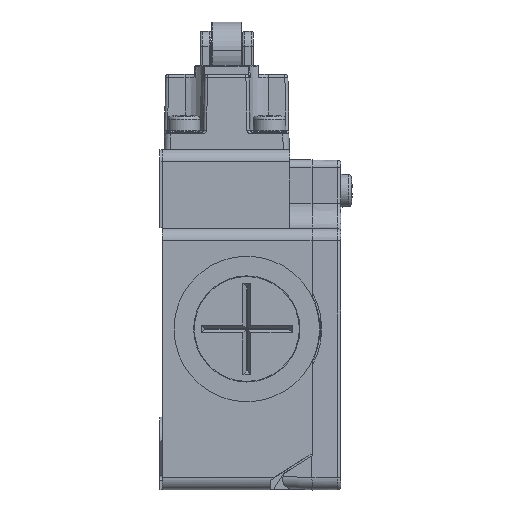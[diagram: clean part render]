
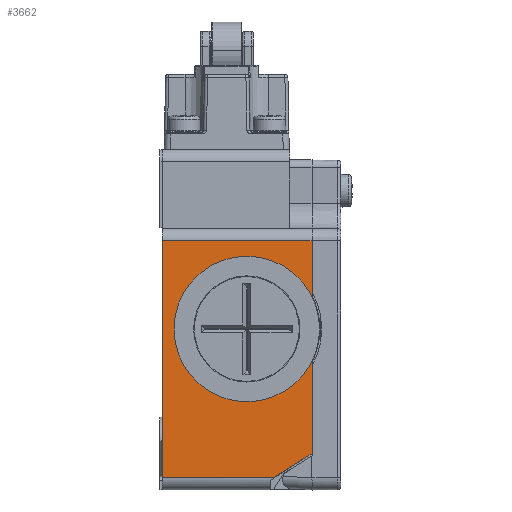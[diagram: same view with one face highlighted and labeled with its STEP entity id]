
A CAD part, front view. The second image highlights one B-rep face of the part: STEP entity #3662.
In plain terms, the highlighted planar face has unit normal (0, -1, 0).
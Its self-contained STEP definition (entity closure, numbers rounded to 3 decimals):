
#3662=ADVANCED_FACE('',(#6304,#6305),#5386,.T.);
#5386=PLANE('',#31624);
#6304=FACE_BOUND('',#6618,.T.);
#6305=FACE_BOUND('',#6619,.T.);
#6618=EDGE_LOOP('',(#9994,#9995,#9996,#9997,#9998,#9999,#10000));
#6619=EDGE_LOOP('',(#10001));
#8514=CIRCLE('',#31622,12.45);
#8515=CIRCLE('',#31623,10.95);
#9994=ORIENTED_EDGE('',*,*,#21743,.F.);
#9995=ORIENTED_EDGE('',*,*,#21847,.F.);
#9996=ORIENTED_EDGE('',*,*,#21764,.F.);
#9997=ORIENTED_EDGE('',*,*,#21848,.T.);
#9998=ORIENTED_EDGE('',*,*,#21849,.F.);
#9999=ORIENTED_EDGE('',*,*,#21850,.T.);
#10000=ORIENTED_EDGE('',*,*,#21851,.T.);
#10001=ORIENTED_EDGE('',*,*,#21852,.T.);
#18795=VERTEX_POINT('',#43268);
#18796=VERTEX_POINT('',#43270);
#18814=VERTEX_POINT('',#43309);
#18815=VERTEX_POINT('',#43311);
#18886=VERTEX_POINT('',#43474);
#18887=VERTEX_POINT('',#43476);
#18888=VERTEX_POINT('',#43478);
#18889=VERTEX_POINT('',#43481);
#21743=EDGE_CURVE('',#18795,#18796,#26197,.T.);
#21764=EDGE_CURVE('',#18814,#18815,#26210,.T.);
#21847=EDGE_CURVE('',#18815,#18795,#8514,.T.);
#21848=EDGE_CURVE('',#18814,#18886,#26282,.T.);
#21849=EDGE_CURVE('',#18887,#18886,#26283,.T.);
#21850=EDGE_CURVE('',#18887,#18888,#26284,.T.);
#21851=EDGE_CURVE('',#18888,#18796,#26285,.T.);
#21852=EDGE_CURVE('',#18889,#18889,#8515,.T.);
#26197=LINE('',#43269,#28891);
#26210=LINE('',#43310,#28904);
#26282=LINE('',#43473,#28976);
#26283=LINE('',#43475,#28977);
#26284=LINE('',#43477,#28978);
#26285=LINE('',#43479,#28979);
#28891=VECTOR('',#34672,1.);
#28904=VECTOR('',#34703,1.);
#28976=VECTOR('',#34815,1.);
#28977=VECTOR('',#34816,1.);
#28978=VECTOR('',#34817,1.);
#28979=VECTOR('',#34818,1.);
#31622=AXIS2_PLACEMENT_3D('',#43472,#34813,#34814);
#31623=AXIS2_PLACEMENT_3D('',#43480,#34819,#34820);
#31624=AXIS2_PLACEMENT_3D('',#43482,#34821,#34822);
#34672=DIRECTION('',(0.,0.,-1.));
#34703=DIRECTION('',(0.,0.,-1.));
#34813=DIRECTION('',(0.,1.,0.));
#34814=DIRECTION('',(-1.,0.,0.));
#34815=DIRECTION('',(-1.,0.,0.));
#34816=DIRECTION('',(0.,0.,1.));
#34817=DIRECTION('',(1.,0.,0.));
#34818=DIRECTION('',(0.843,0.,0.538));
#34819=DIRECTION('',(0.,1.,0.));
#34820=DIRECTION('',(1.,0.,0.));
#34821=DIRECTION('',(0.,-1.,0.));
#34822=DIRECTION('',(-1.,0.,0.));
#43268=CARTESIAN_POINT('',(-101.93,22.448,93.674));
#43269=CARTESIAN_POINT('',(-101.93,22.448,128.963));
#43270=CARTESIAN_POINT('',(-101.93,22.448,78.663));
#43309=CARTESIAN_POINT('',(-101.93,22.448,113.763));
#43310=CARTESIAN_POINT('',(-101.93,22.448,128.963));
#43311=CARTESIAN_POINT('',(-101.93,22.448,104.752));
#43472=CARTESIAN_POINT('',(-113.08,22.448,99.213));
#43473=CARTESIAN_POINT('',(-126.68,22.448,113.763));
#43474=CARTESIAN_POINT('',(-126.58,22.448,113.763));
#43475=CARTESIAN_POINT('',(-126.58,22.448,128.963));
#43476=CARTESIAN_POINT('',(-126.58,22.448,74.663));
#43477=CARTESIAN_POINT('',(-126.68,22.448,74.663));
#43478=CARTESIAN_POINT('',(-108.203,22.448,74.663));
#43479=CARTESIAN_POINT('',(-108.83,22.448,74.263));
#43480=CARTESIAN_POINT('',(-112.68,22.448,99.213));
#43481=CARTESIAN_POINT('',(-101.73,22.448,99.213));
#43482=CARTESIAN_POINT('',(-126.68,22.448,128.963));
